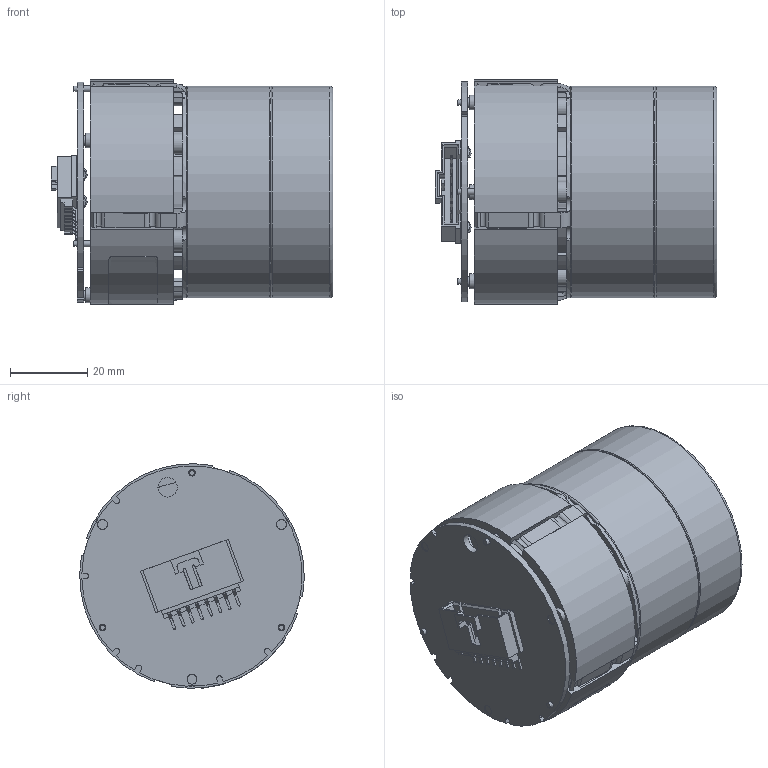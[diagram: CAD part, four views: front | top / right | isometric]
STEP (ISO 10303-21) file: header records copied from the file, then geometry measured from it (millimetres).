
FILE_DESCRIPTION (( 'STEP AP214' ), '1' );
FILE_NAME ('Silencer 3000 - BLDC Motor.STEP', '2020-04-22T18:55:29', ( '' ), ( '' ), 'SwSTEP 2.0', 'SolidWorks 2019', '' );
FILE_SCHEMA (( 'AUTOMOTIVE_DESIGN' ));
Length unit declared in the file: millimetre
Products named in the file (20): PD01-SC-00; PCB^PD02-MA-00A; PD21-BB-00; PD21-PU-00; Connector^PD02-MA-00A; Label^PD02-MA-00A; PD02-EP-00 1-4 NPT; MB0114; PD02-MA-00A; Copy of stator 60mNm^PD02-MA-00A; Silencer 3000 - BLDC Motor; PD02-CU-00; PD21-BO-00; Mol^PD02-MA-00A; Pins^PD02-MA-00A
Assembly tree (21 placements, depth 4):
  Silencer 3000 - BLDC Motor
    PD02-MA-00A
      Copy of stator 60mNm^PD02-MA-00A
      Mol^PD02-MA-00A
      PCB^PD02-MA-00A
      Pins^PD02-MA-00A  x3
      Connector^PD02-MA-00A
      Label^PD02-MA-00A
    PD21-PU-00
      PD01-SC-00
      PD02-CU-00
      PD21-BO-00
        PD21-BB-00
      PD02-EP-00 1-4 NPT
      PD01-SC-00
      PD01-SC-00
      PD01-SC-00
      PD01-SC-00
      PD01-SC-00
      MB0114
Bounding box: 72.79 x 58.08 x 58.08 mm (x, y, z)
Volume: 128372 mm3; surface area: 64630.5 mm2
Topology: 18 solids, 18 shells, 1178 faces, 3232 edges, 2125 vertices
Faces by surface type: plane 707, cylinder 425, torus 29, cone 15, bspline 2
Full cylindrical faces by diameter (mm): 1.6 x18, 1.7 x3, 2.4 x6, 2.5 x3, 2.55 x3, 3.2 x2, 3.3 x8, 3.4 x2, 3.8 x3, 5 x1, 5.5 x6, 6 x2, 11.125 x2, 26 x1, 36.1 x1, 38 x1, 42.7 x2, 49.1 x1, 54.8 x2
Entity records: 39525 total; most frequent: CARTESIAN_POINT 6770, DIRECTION 6275, ORIENTED_EDGE 6120, EDGE_CURVE 3060, VECTOR 2115, LINE 2115, AXIS2_PLACEMENT_3D 2080, VERTEX_POINT 2067
